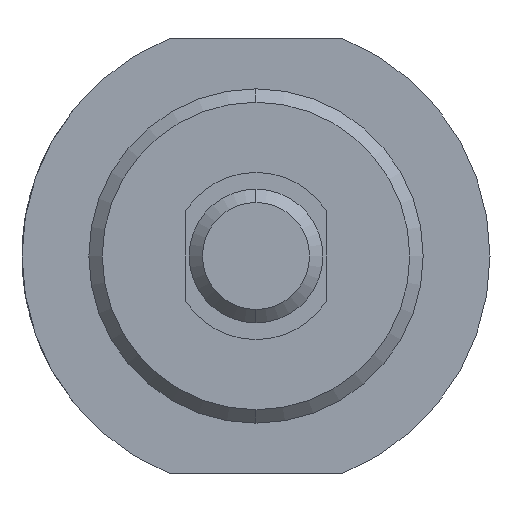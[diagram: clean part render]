
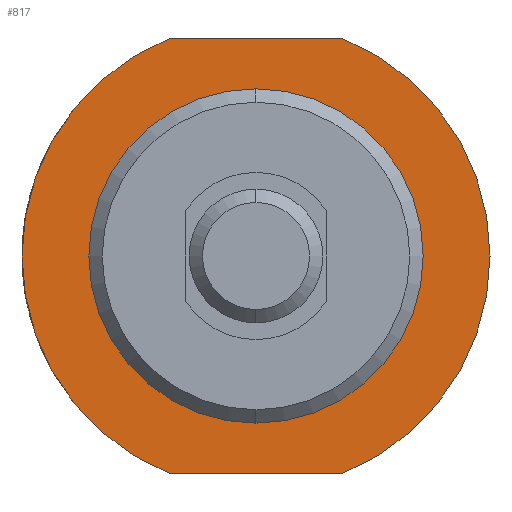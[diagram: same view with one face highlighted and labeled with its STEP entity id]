
A CAD part, left-side view. The second image highlights one B-rep face of the part: STEP entity #817.
In plain terms, the highlighted planar face has unit normal (-1, 0, 0).
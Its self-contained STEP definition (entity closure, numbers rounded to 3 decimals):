
#11 = DIRECTION ( 'NONE',  ( 0., 1., 0. ) ) ;
#22 = AXIS2_PLACEMENT_3D ( 'NONE', #260, #1052, #1478 ) ;
#62 = CARTESIAN_POINT ( 'NONE',  ( 28., 0., 0. ) ) ;
#93 = CIRCLE ( 'NONE', #143, 7. ) ;
#132 = CIRCLE ( 'NONE', #699, 5. ) ;
#143 = AXIS2_PLACEMENT_3D ( 'NONE', #1066, #194, #438 ) ;
#190 = ORIENTED_EDGE ( 'NONE', *, *, #585, .F. ) ;
#191 = CARTESIAN_POINT ( 'NONE',  ( 28., -2.598, -6.5 ) ) ;
#194 = DIRECTION ( 'NONE',  ( -1., 0., 0. ) ) ;
#220 = CARTESIAN_POINT ( 'NONE',  ( 28., 2.598, 6.5 ) ) ;
#239 = VERTEX_POINT ( 'NONE', #694 ) ;
#260 = CARTESIAN_POINT ( 'NONE',  ( 28., 5., 0. ) ) ;
#329 = EDGE_CURVE ( 'NONE', #1425, #1219, #132, .T. ) ;
#339 = ORIENTED_EDGE ( 'NONE', *, *, #570, .T. ) ;
#351 = CARTESIAN_POINT ( 'NONE',  ( 28., 0., 0. ) ) ;
#356 = PLANE ( 'NONE',  #22 ) ;
#358 = AXIS2_PLACEMENT_3D ( 'NONE', #491, #466, #492 ) ;
#393 = LINE ( 'NONE', #220, #1509 ) ;
#410 = ORIENTED_EDGE ( 'NONE', *, *, #1529, .F. ) ;
#438 = DIRECTION ( 'NONE',  ( 0., 0., 1. ) ) ;
#466 = DIRECTION ( 'NONE',  ( -1., 0., 0. ) ) ;
#491 = CARTESIAN_POINT ( 'NONE',  ( 28., 0., 0. ) ) ;
#492 = DIRECTION ( 'NONE',  ( 0., 0., 1. ) ) ;
#506 = VERTEX_POINT ( 'NONE', #191 ) ;
#520 = DIRECTION ( 'NONE',  ( -1., 0., 0. ) ) ;
#554 = AXIS2_PLACEMENT_3D ( 'NONE', #351, #520, #580 ) ;
#570 = EDGE_CURVE ( 'NONE', #506, #1197, #93, .T. ) ;
#580 = DIRECTION ( 'NONE',  ( 0., 0., 1. ) ) ;
#585 = EDGE_CURVE ( 'NONE', #1219, #1425, #916, .T. ) ;
#618 = ORIENTED_EDGE ( 'NONE', *, *, #329, .F. ) ;
#694 = CARTESIAN_POINT ( 'NONE',  ( 28., 2.598, -6.5 ) ) ;
#699 = AXIS2_PLACEMENT_3D ( 'NONE', #62, #727, #1324 ) ;
#727 = DIRECTION ( 'NONE',  ( -1., 0., 0. ) ) ;
#817 = ADVANCED_FACE ( 'NONE', ( #1217, #837 ), #356, .F. ) ;
#837 = FACE_OUTER_BOUND ( 'NONE', #1445, .T. ) ;
#849 = ORIENTED_EDGE ( 'NONE', *, *, #1482, .F. ) ;
#916 = CIRCLE ( 'NONE', #358, 5. ) ;
#950 = CARTESIAN_POINT ( 'NONE',  ( 28., 0., 5. ) ) ;
#971 = CARTESIAN_POINT ( 'NONE',  ( 28., 2.598, -6.5 ) ) ;
#1023 = CARTESIAN_POINT ( 'NONE',  ( 28., 0., -5. ) ) ;
#1052 = DIRECTION ( 'NONE',  ( 1., 0., 0. ) ) ;
#1059 = VERTEX_POINT ( 'NONE', #1573 ) ;
#1061 = CIRCLE ( 'NONE', #554, 7. ) ;
#1066 = CARTESIAN_POINT ( 'NONE',  ( 28., 0., 0. ) ) ;
#1118 = EDGE_CURVE ( 'NONE', #1059, #239, #1061, .T. ) ;
#1197 = VERTEX_POINT ( 'NONE', #1430 ) ;
#1210 = LINE ( 'NONE', #971, #1497 ) ;
#1217 = FACE_BOUND ( 'NONE', #1414, .T. ) ;
#1219 = VERTEX_POINT ( 'NONE', #950 ) ;
#1221 = ORIENTED_EDGE ( 'NONE', *, *, #1118, .T. ) ;
#1324 = DIRECTION ( 'NONE',  ( 0., 0., 1. ) ) ;
#1327 = DIRECTION ( 'NONE',  ( 0., -1., 0. ) ) ;
#1414 = EDGE_LOOP ( 'NONE', ( #190, #618 ) ) ;
#1425 = VERTEX_POINT ( 'NONE', #1023 ) ;
#1430 = CARTESIAN_POINT ( 'NONE',  ( 28., -2.598, 6.5 ) ) ;
#1445 = EDGE_LOOP ( 'NONE', ( #339, #410, #1221, #849 ) ) ;
#1478 = DIRECTION ( 'NONE',  ( 0., 0., -1. ) ) ;
#1482 = EDGE_CURVE ( 'NONE', #506, #239, #1210, .T. ) ;
#1497 = VECTOR ( 'NONE', #11, 1000. ) ;
#1509 = VECTOR ( 'NONE', #1327, 1000. ) ;
#1529 = EDGE_CURVE ( 'NONE', #1059, #1197, #393, .T. ) ;
#1573 = CARTESIAN_POINT ( 'NONE',  ( 28., 2.598, 6.5 ) ) ;
